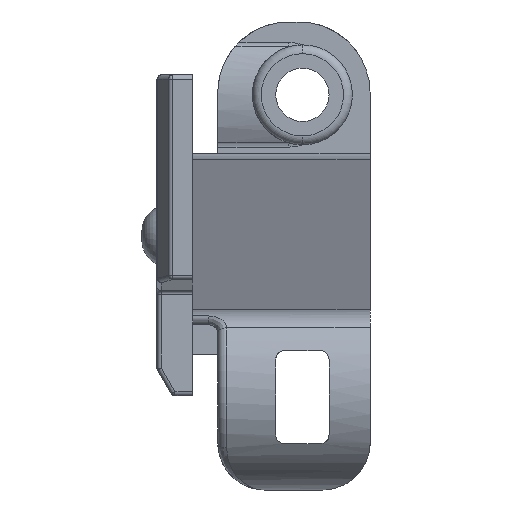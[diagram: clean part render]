
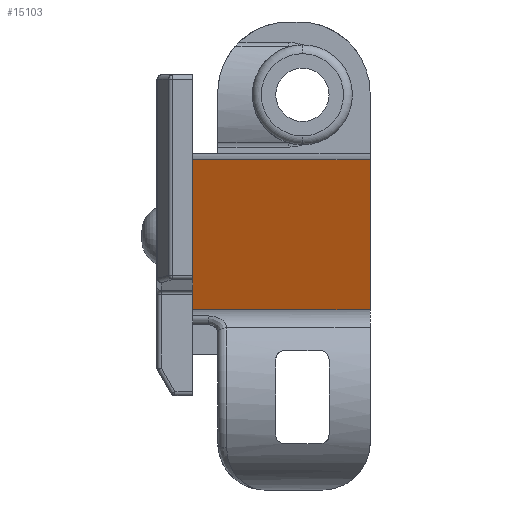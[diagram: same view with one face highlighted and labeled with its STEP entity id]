
A CAD part, left-side view. The second image highlights one B-rep face of the part: STEP entity #15103.
In plain terms, the highlighted planar face has unit normal (-0.934, 0, -0.358).
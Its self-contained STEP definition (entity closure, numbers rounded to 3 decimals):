
#155 = DIRECTION ( 'NONE',  ( 0.358, 0., -0.934 ) ) ;
#375 = VECTOR ( 'NONE', #4552, 1000. ) ;
#437 = AXIS2_PLACEMENT_3D ( 'NONE', #11891, #1395, #155 ) ;
#615 = EDGE_CURVE ( 'NONE', #9589, #7522, #12890, .T. ) ;
#746 = LINE ( 'NONE', #8003, #375 ) ;
#1395 = DIRECTION ( 'NONE',  ( 0.934, 0., 0.358 ) ) ;
#2714 = VECTOR ( 'NONE', #15079, 1000. ) ;
#2965 = DIRECTION ( 'NONE',  ( 0.358, 0., -0.934 ) ) ;
#3589 = DIRECTION ( 'NONE',  ( 0.358, 0., -0.934 ) ) ;
#3604 = LINE ( 'NONE', #13879, #2714 ) ;
#3991 = EDGE_LOOP ( 'NONE', ( #13453, #10063, #9318, #10113 ) ) ;
#4552 = DIRECTION ( 'NONE',  ( 0., 1., 0. ) ) ;
#5204 = CARTESIAN_POINT ( 'NONE',  ( -6.715, 18.525, -18.392 ) ) ;
#7075 = CARTESIAN_POINT ( 'NONE',  ( -13.193, -1.475, -1.517 ) ) ;
#7522 = VERTEX_POINT ( 'NONE', #11818 ) ;
#8003 = CARTESIAN_POINT ( 'NONE',  ( -6.715, -1.475, -18.392 ) ) ;
#8254 = CARTESIAN_POINT ( 'NONE',  ( -13.193, 18.525, -1.517 ) ) ;
#9239 = VERTEX_POINT ( 'NONE', #5204 ) ;
#9318 = ORIENTED_EDGE ( 'NONE', *, *, #615, .F. ) ;
#9589 = VERTEX_POINT ( 'NONE', #7075 ) ;
#10063 = ORIENTED_EDGE ( 'NONE', *, *, #12018, .F. ) ;
#10113 = ORIENTED_EDGE ( 'NONE', *, *, #12007, .T. ) ;
#11775 = VECTOR ( 'NONE', #3589, 1000. ) ;
#11818 = CARTESIAN_POINT ( 'NONE',  ( -6.715, -1.475, -18.392 ) ) ;
#11891 = CARTESIAN_POINT ( 'NONE',  ( -13.193, -1.475, -1.517 ) ) ;
#12007 = EDGE_CURVE ( 'NONE', #9589, #12213, #3604, .T. ) ;
#12018 = EDGE_CURVE ( 'NONE', #7522, #9239, #746, .T. ) ;
#12213 = VERTEX_POINT ( 'NONE', #13256 ) ;
#12528 = VECTOR ( 'NONE', #2965, 1000. ) ;
#12890 = LINE ( 'NONE', #13245, #12528 ) ;
#13245 = CARTESIAN_POINT ( 'NONE',  ( -13.193, -1.475, -1.517 ) ) ;
#13256 = CARTESIAN_POINT ( 'NONE',  ( -13.193, 18.525, -1.517 ) ) ;
#13453 = ORIENTED_EDGE ( 'NONE', *, *, #14599, .T. ) ;
#13879 = CARTESIAN_POINT ( 'NONE',  ( -13.193, -1.475, -1.517 ) ) ;
#14109 = FACE_OUTER_BOUND ( 'NONE', #3991, .T. ) ;
#14168 = PLANE ( 'NONE',  #437 ) ;
#14599 = EDGE_CURVE ( 'NONE', #12213, #9239, #14884, .T. ) ;
#14884 = LINE ( 'NONE', #8254, #11775 ) ;
#15079 = DIRECTION ( 'NONE',  ( 0., 1., 0. ) ) ;
#15103 = ADVANCED_FACE ( 'NONE', ( #14109 ), #14168, .F. ) ;
